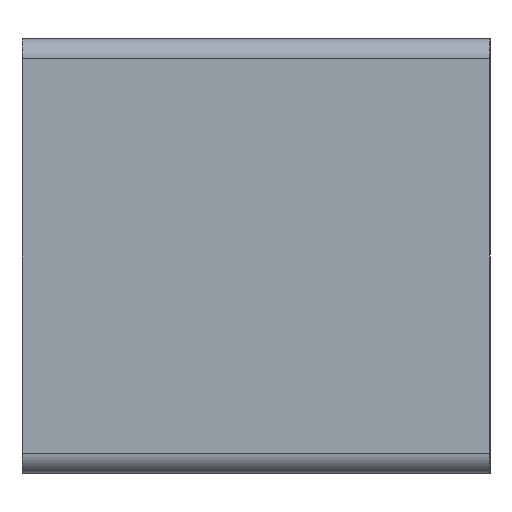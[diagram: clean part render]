
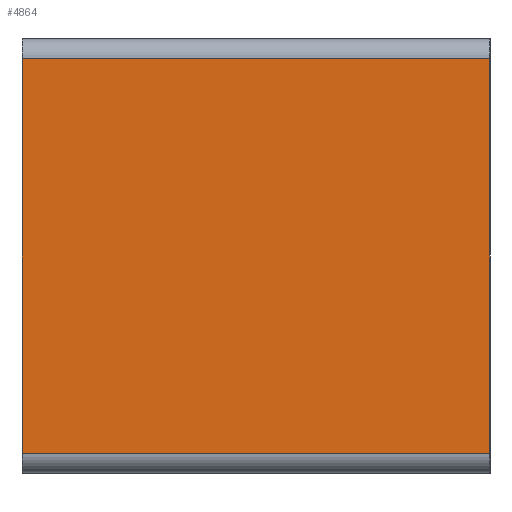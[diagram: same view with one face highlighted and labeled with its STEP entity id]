
A CAD part, left-side view. The second image highlights one B-rep face of the part: STEP entity #4864.
In plain terms, the highlighted planar face has unit normal (-1, 0, 0).
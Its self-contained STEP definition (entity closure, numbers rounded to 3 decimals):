
#495 = EDGE_LOOP ( 'NONE', ( #3500, #5030, #3925, #789 ) ) ;
#531 = CARTESIAN_POINT ( 'NONE',  ( -139.996, 367.5, 92.005 ) ) ;
#567 = CARTESIAN_POINT ( 'NONE',  ( -139.996, 367.5, 30.005 ) ) ;
#576 = EDGE_CURVE ( 'NONE', #2515, #3635, #3769, .T. ) ;
#599 = CARTESIAN_POINT ( 'NONE',  ( -139.996, 437.5, 33.005 ) ) ;
#662 = DIRECTION ( 'NONE',  ( 0., 0., -1. ) ) ;
#789 = ORIENTED_EDGE ( 'NONE', *, *, #828, .T. ) ;
#828 = EDGE_CURVE ( 'NONE', #2602, #5733, #2992, .T. ) ;
#995 = VECTOR ( 'NONE', #5821, 1000. ) ;
#1286 = DIRECTION ( 'NONE',  ( 0., -1., 0. ) ) ;
#1357 = VECTOR ( 'NONE', #1286, 1000. ) ;
#1737 = VECTOR ( 'NONE', #662, 1000. ) ;
#2178 = LINE ( 'NONE', #567, #1737 ) ;
#2370 = FACE_OUTER_BOUND ( 'NONE', #495, .T. ) ;
#2515 = VERTEX_POINT ( 'NONE', #599 ) ;
#2602 = VERTEX_POINT ( 'NONE', #531 ) ;
#2693 = DIRECTION ( 'NONE',  ( 0., 0., 1. ) ) ;
#2698 = DIRECTION ( 'NONE',  ( 1., 0., 0. ) ) ;
#2702 = CARTESIAN_POINT ( 'NONE',  ( -139.996, 367.5, 30.005 ) ) ;
#2757 = PLANE ( 'NONE',  #3458 ) ;
#2991 = EDGE_CURVE ( 'NONE', #5733, #2515, #3570, .T. ) ;
#2992 = LINE ( 'NONE', #4388, #3025 ) ;
#3025 = VECTOR ( 'NONE', #4440, 1000. ) ;
#3458 = AXIS2_PLACEMENT_3D ( 'NONE', #2702, #2698, #2693 ) ;
#3500 = ORIENTED_EDGE ( 'NONE', *, *, #2991, .T. ) ;
#3553 = CARTESIAN_POINT ( 'NONE',  ( -139.996, 367.5, 33.005 ) ) ;
#3570 = LINE ( 'NONE', #5887, #995 ) ;
#3635 = VERTEX_POINT ( 'NONE', #4936 ) ;
#3769 = LINE ( 'NONE', #3553, #1357 ) ;
#3925 = ORIENTED_EDGE ( 'NONE', *, *, #5102, .F. ) ;
#4388 = CARTESIAN_POINT ( 'NONE',  ( -139.996, 367.5, 92.005 ) ) ;
#4440 = DIRECTION ( 'NONE',  ( 0., 1., 0. ) ) ;
#4864 = ADVANCED_FACE ( 'NONE', ( #2370 ), #2757, .F. ) ;
#4936 = CARTESIAN_POINT ( 'NONE',  ( -139.996, 367.5, 33.005 ) ) ;
#5030 = ORIENTED_EDGE ( 'NONE', *, *, #576, .T. ) ;
#5102 = EDGE_CURVE ( 'NONE', #2602, #3635, #2178, .T. ) ;
#5733 = VERTEX_POINT ( 'NONE', #5988 ) ;
#5821 = DIRECTION ( 'NONE',  ( 0., 0., -1. ) ) ;
#5887 = CARTESIAN_POINT ( 'NONE',  ( -139.996, 437.5, 30.005 ) ) ;
#5988 = CARTESIAN_POINT ( 'NONE',  ( -139.996, 437.5, 92.005 ) ) ;
